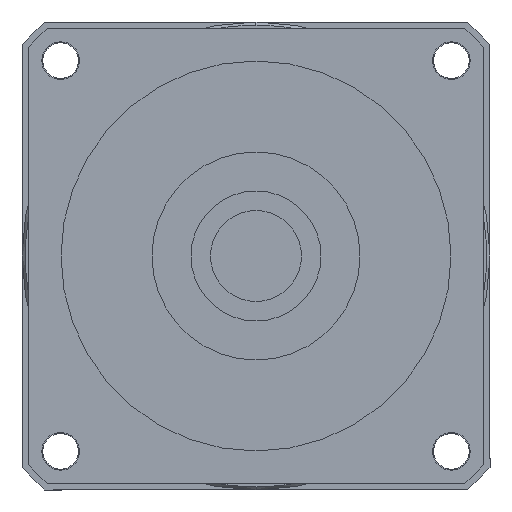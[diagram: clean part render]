
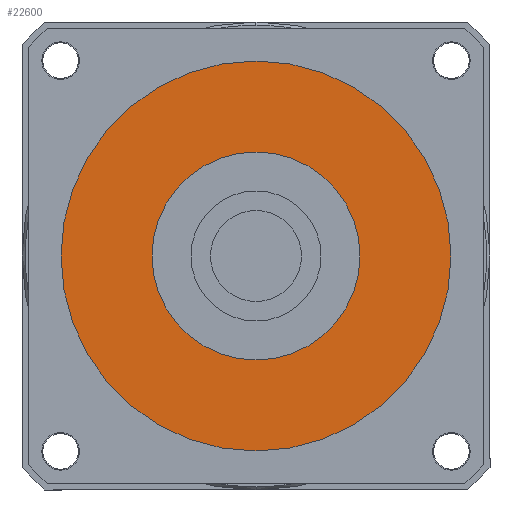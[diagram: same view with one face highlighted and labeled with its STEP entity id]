
A CAD part, left-side view. The second image highlights one B-rep face of the part: STEP entity #22600.
In plain terms, the highlighted planar face has unit normal (-1, 0, 0) as drawn and (0, 0, -1) by its records, which use the part's own axes.
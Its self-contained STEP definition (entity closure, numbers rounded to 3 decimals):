
#22020=CARTESIAN_POINT('',(-30.,0.,-89.5));
#22030=VERTEX_POINT('',#22020);
#22120=CARTESIAN_POINT('',(30.,0.,-89.5));
#22130=VERTEX_POINT('',#22120);
#22160=CARTESIAN_POINT('',(0.,0.,
-89.5));
#22170=DIRECTION('',(0.,0.,1.));
#22180=DIRECTION('',(0.,-1.,0.));
#22190=AXIS2_PLACEMENT_3D('',#22160,#22170,#22180);
#22200=CIRCLE('',#22190,30.);
#22210=CARTESIAN_POINT('',(0.,-30.,-89.5));
#22220=VERTEX_POINT('',#22210);
#22230=EDGE_CURVE('',#22220,#22130,#22200,.T.);
#22250=EDGE_CURVE('',#22030,#22220,#22200,.T.);
#22300=CARTESIAN_POINT('',(0.,0.,
-89.5));
#22310=DIRECTION('',(0.,0.,1.));
#22320=DIRECTION('',(-1.,0.,0.));
#22330=AXIS2_PLACEMENT_3D('',#22300,#22310,#22320);
#22340=PLANE('',#22330);
#22350=ORIENTED_EDGE('',*,*,#22230,.F.);
#22360=EDGE_CURVE('',#22130,#22030,#22200,.T.);
#22370=ORIENTED_EDGE('',*,*,#22360,.F.);
#22380=ORIENTED_EDGE('',*,*,#22250,.F.);
#22390=EDGE_LOOP('',(#22380,#22370,#22350));
#22400=FACE_OUTER_BOUND('',#22390,.T.);
#22410=CARTESIAN_POINT('',(0.,0.,
-89.5));
#22420=DIRECTION('',(0.,0.,1.));
#22430=DIRECTION('',(0.,-1.,0.));
#22440=AXIS2_PLACEMENT_3D('',#22410,#22420,#22430);
#22450=CIRCLE('',#22440,16.);
#22460=CARTESIAN_POINT('',(16.,0.,-89.5));
#22470=VERTEX_POINT('',#22460);
#22480=CARTESIAN_POINT('',(-16.,0.,-89.5));
#22490=VERTEX_POINT('',#22480);
#22500=EDGE_CURVE('',#22470,#22490,#22450,.T.);
#22510=ORIENTED_EDGE('',*,*,#22500,.T.);
#22520=CARTESIAN_POINT('',(0.,-16.,-89.5));
#22530=VERTEX_POINT('',#22520);
#22540=EDGE_CURVE('',#22530,#22470,#22450,.T.);
#22550=ORIENTED_EDGE('',*,*,#22540,.T.);
#22560=EDGE_CURVE('',#22490,#22530,#22450,.T.);
#22570=ORIENTED_EDGE('',*,*,#22560,.T.);
#22580=EDGE_LOOP('',(#22570,#22550,#22510));
#22590=FACE_BOUND('',#22580,.T.);
#22600=ADVANCED_FACE('',(#22400,#22590),#22340,.F.);
